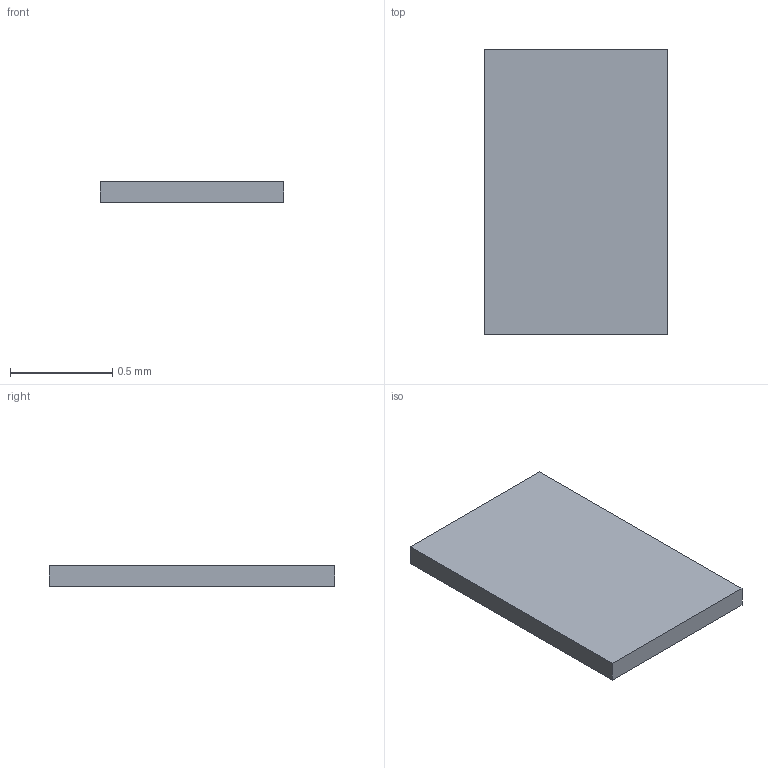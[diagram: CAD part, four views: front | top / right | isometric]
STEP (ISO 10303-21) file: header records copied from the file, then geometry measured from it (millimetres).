
FILE_DESCRIPTION(/* description */ ('STEP AP242 Edition 2','CAx-IF Rec.Pracs.---Representation and Presentation of Product Manufacturing Information (PMI)---4.0---2014-10-13','CAx-IF Rec.Pracs.---3D Tessellated Geometry---0.4---2014-09-14','2;1','CAx-IF Rec.Pracs.---User Defined Attributes---1.5---2016-08-15'),/* implementation_level */ '2;1');
FILE_NAME(/* name */ 'Assembly 1 - SW-SMD_L3.9-W3.0-P4.45~SW-SMD_L3.9-W2.9-H2.0-LS4.8~nxQB (11)',/* time_stamp */ '2026-04-02T09:55:25Z',/* author */ (''),/* organization */ (''),/* preprocessor_version */ 'ST-DEVELOPER v20',/* originating_system */ 'ONSHAPE BY PTC INC, 1.212',/* authorisation */ ' ');
FILE_SCHEMA (('AP242_MANAGED_MODEL_BASED_3D_ENGINEERING_MIM_LF { 1 0 10303 442 3 1 4 }'));
Length unit declared in the file: metre
Products named in the file (1): SW-SMD_L3.9-W3.0-P4.45~SW-SMD_L3.9-W2.9-H2.0-LS4.8~nxQB
Bounding box: 0.9 x 1.4 x 0.1 mm (x, y, z)
Volume: 0.1 mm3; surface area: 3 mm2
Topology: 1 solids, 1 shells, 6 faces, 12 edges, 8 vertices
Faces by surface type: plane 6
Entity records: 221 total; most frequent: CARTESIAN_POINT 27, DIRECTION 26, ORIENTED_EDGE 24, EDGE_CURVE 12, LINE 12, VECTOR 12, VERTEX_POINT 8, PRESENTATION_STYLE_ASSIGNMENT 7
